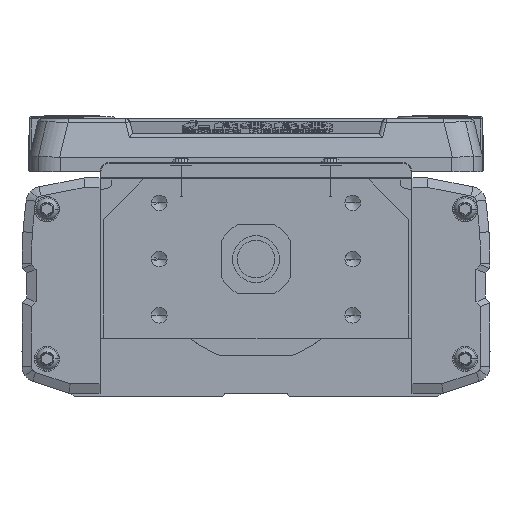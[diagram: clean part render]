
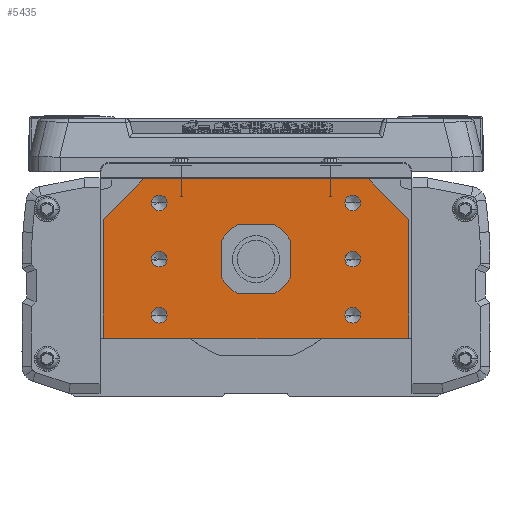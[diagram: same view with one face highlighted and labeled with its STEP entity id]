
A CAD part, left-side view. The second image highlights one B-rep face of the part: STEP entity #5435.
In plain terms, the highlighted planar face has unit normal (-1, 0, 0).
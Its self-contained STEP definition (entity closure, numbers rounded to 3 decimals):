
#5435=ADVANCED_FACE('',(#11295,#11296,#11297,#11298,#11299,#11300,#11301,#11302),#11303,.F.);
#11295=FACE_OUTER_BOUND('',#18623,.T.);
#11296=FACE_BOUND('',#18624,.T.);
#11297=FACE_BOUND('',#18625,.T.);
#11298=FACE_BOUND('',#18626,.T.);
#11299=FACE_BOUND('',#18627,.T.);
#11300=FACE_BOUND('',#18628,.T.);
#11301=FACE_BOUND('',#18629,.T.);
#11302=FACE_BOUND('',#18630,.T.);
#11303=PLANE('',#18631);
#18623=EDGE_LOOP('',(#34316,#34317,#34318,#34319,#34320,#34321,#34322,#34323));
#18624=EDGE_LOOP('',(#34324,#34325));
#18625=EDGE_LOOP('',(#34326,#34327));
#18626=EDGE_LOOP('',(#34328,#34329));
#18627=EDGE_LOOP('',(#34330,#34331));
#18628=EDGE_LOOP('',(#34332,#34333));
#18629=EDGE_LOOP('',(#34334,#34335));
#18630=EDGE_LOOP('',(#34336,#34337));
#18631=AXIS2_PLACEMENT_3D('',#34338,#34339,#34340);
#34316=ORIENTED_EDGE('',*,*,#43590,.F.);
#34317=ORIENTED_EDGE('',*,*,#39730,.F.);
#34318=ORIENTED_EDGE('',*,*,#42484,.F.);
#34319=ORIENTED_EDGE('',*,*,#42505,.F.);
#34320=ORIENTED_EDGE('',*,*,#40166,.F.);
#34321=ORIENTED_EDGE('',*,*,#42225,.F.);
#34322=ORIENTED_EDGE('',*,*,#41857,.F.);
#34323=ORIENTED_EDGE('',*,*,#44697,.F.);
#34324=ORIENTED_EDGE('',*,*,#43143,.T.);
#34325=ORIENTED_EDGE('',*,*,#44698,.T.);
#34326=ORIENTED_EDGE('',*,*,#44699,.T.);
#34327=ORIENTED_EDGE('',*,*,#44700,.T.);
#34328=ORIENTED_EDGE('',*,*,#38616,.T.);
#34329=ORIENTED_EDGE('',*,*,#42868,.T.);
#34330=ORIENTED_EDGE('',*,*,#43159,.T.);
#34331=ORIENTED_EDGE('',*,*,#44701,.T.);
#34332=ORIENTED_EDGE('',*,*,#44702,.T.);
#34333=ORIENTED_EDGE('',*,*,#41639,.T.);
#34334=ORIENTED_EDGE('',*,*,#40665,.T.);
#34335=ORIENTED_EDGE('',*,*,#44703,.T.);
#34336=ORIENTED_EDGE('',*,*,#38427,.F.);
#34337=ORIENTED_EDGE('',*,*,#44667,.F.);
#34338=CARTESIAN_POINT('',(0.,0.275,-2.548));
#34339=DIRECTION('',(1.0,0.,0.));
#34340=DIRECTION('',(0.,1.0,0.));
#38427=EDGE_CURVE('',#45491,#45486,#45493,.F.);
#38616=EDGE_CURVE('',#45824,#45828,#45830,.T.);
#39730=EDGE_CURVE('',#47797,#47793,#47799,.T.);
#40166=EDGE_CURVE('',#48527,#48529,#48530,.T.);
#40665=EDGE_CURVE('',#49335,#49339,#49341,.T.);
#41639=EDGE_CURVE('',#50887,#50885,#50888,.T.);
#41857=EDGE_CURVE('',#51211,#51212,#51213,.T.);
#42225=EDGE_CURVE('',#51212,#48527,#51740,.T.);
#42484=EDGE_CURVE('',#52128,#47797,#52130,.T.);
#42505=EDGE_CURVE('',#48529,#52128,#52159,.T.);
#42868=EDGE_CURVE('',#45828,#45824,#52676,.T.);
#43143=EDGE_CURVE('',#53045,#53048,#53050,.T.);
#43159=EDGE_CURVE('',#53068,#53070,#53072,.T.);
#43590=EDGE_CURVE('',#47793,#53632,#53633,.T.);
#44667=EDGE_CURVE('',#45486,#45491,#54915,.F.);
#44697=EDGE_CURVE('',#53632,#51211,#54947,.T.);
#44698=EDGE_CURVE('',#53048,#53045,#54948,.T.);
#44699=EDGE_CURVE('',#54949,#54950,#54951,.T.);
#44700=EDGE_CURVE('',#54950,#54949,#54952,.T.);
#44701=EDGE_CURVE('',#53070,#53068,#54953,.T.);
#44702=EDGE_CURVE('',#50885,#50887,#54954,.T.);
#44703=EDGE_CURVE('',#49339,#49335,#54955,.T.);
#45486=VERTEX_POINT('',#55805);
#45491=VERTEX_POINT('',#55811);
#45493=CIRCLE('',#55814,7.5);
#45824=VERTEX_POINT('',#56257);
#45828=VERTEX_POINT('',#56262);
#45830=CIRCLE('',#56265,2.5);
#47793=VERTEX_POINT('',#59031);
#47797=VERTEX_POINT('',#59037);
#47799=LINE('',#59040,#59041);
#48527=VERTEX_POINT('',#59968);
#48529=VERTEX_POINT('',#59971);
#48530=LINE('',#59972,#59973);
#49335=VERTEX_POINT('',#61403);
#49339=VERTEX_POINT('',#61408);
#49341=CIRCLE('',#61411,2.5);
#50885=VERTEX_POINT('',#63574);
#50887=VERTEX_POINT('',#63577);
#50888=CIRCLE('',#63578,2.5);
#51211=VERTEX_POINT('',#64024);
#51212=VERTEX_POINT('',#64025);
#51213=LINE('',#64026,#64027);
#51740=LINE('',#64755,#64756);
#52128=VERTEX_POINT('',#65316);
#52130=LINE('',#65319,#65320);
#52159=LINE('',#65361,#65362);
#52676=CIRCLE('',#66053,2.5);
#53045=VERTEX_POINT('',#66552);
#53048=VERTEX_POINT('',#66556);
#53050=CIRCLE('',#66559,2.5);
#53068=VERTEX_POINT('',#66585);
#53070=VERTEX_POINT('',#66588);
#53072=CIRCLE('',#66591,2.5);
#53632=VERTEX_POINT('',#67347);
#53633=LINE('',#67348,#67349);
#54915=CIRCLE('',#69237,7.5);
#54947=LINE('',#69276,#69277);
#54948=CIRCLE('',#69278,2.5);
#54949=VERTEX_POINT('',#69279);
#54950=VERTEX_POINT('',#69280);
#54951=CIRCLE('',#69281,2.5);
#54952=CIRCLE('',#69282,2.5);
#54953=CIRCLE('',#69283,2.5);
#54954=CIRCLE('',#69284,2.5);
#54955=CIRCLE('',#69285,2.5);
#55805=CARTESIAN_POINT('',(0.,-7.5,0.));
#55811=CARTESIAN_POINT('',(0.,7.5,0.));
#55814=AXIS2_PLACEMENT_3D('',#70395,#70396,#70397);
#56257=CARTESIAN_POINT('',(0.,33.5,18.));
#56262=CARTESIAN_POINT('',(0.,28.5,18.));
#56265=AXIS2_PLACEMENT_3D('',#70645,#70646,#70647);
#59031=CARTESIAN_POINT('',(0.,49.,12.7));
#59037=CARTESIAN_POINT('',(0.,49.,-25.));
#59040=CARTESIAN_POINT('',(0.,49.,-25.));
#59041=VECTOR('',#72176,10.0);
#59968=CARTESIAN_POINT('',(0.,-49.,-25.));
#59971=CARTESIAN_POINT('',(0.,-48.5,-25.5));
#59972=CARTESIAN_POINT('',(0.,-49.,-25.));
#59973=VECTOR('',#72863,10.0);
#61403=CARTESIAN_POINT('',(0.,-33.5,0.));
#61408=CARTESIAN_POINT('',(0.,-28.5,0.));
#61411=AXIS2_PLACEMENT_3D('',#73508,#73509,#73510);
#63574=CARTESIAN_POINT('',(0.,33.5,0.));
#63577=CARTESIAN_POINT('',(0.,28.5,0.));
#63578=AXIS2_PLACEMENT_3D('',#74911,#74912,#74913);
#64024=CARTESIAN_POINT('',(0.,-36.,25.7));
#64025=CARTESIAN_POINT('',(0.,-49.,12.7));
#64026=CARTESIAN_POINT('',(0.,-37.243,24.457));
#64027=VECTOR('',#75174,10.0);
#64755=CARTESIAN_POINT('',(0.,-49.,-14.));
#64756=VECTOR('',#75619,10.0);
#65316=CARTESIAN_POINT('',(0.,48.5,-25.5));
#65319=CARTESIAN_POINT('',(0.,48.5,-25.5));
#65320=VECTOR('',#75956,10.0);
#65361=CARTESIAN_POINT('',(0.,0.,-25.5));
#65362=VECTOR('',#75981,10.0);
#66053=AXIS2_PLACEMENT_3D('',#76451,#76452,#76453);
#66552=CARTESIAN_POINT('',(0.,33.5,-18.));
#66556=CARTESIAN_POINT('',(0.,28.5,-18.));
#66559=AXIS2_PLACEMENT_3D('',#76792,#76793,#76794);
#66585=CARTESIAN_POINT('',(0.,-33.5,18.));
#66588=CARTESIAN_POINT('',(0.,-28.5,18.));
#66591=AXIS2_PLACEMENT_3D('',#76808,#76809,#76810);
#67347=CARTESIAN_POINT('',(0.,36.,25.7));
#67348=CARTESIAN_POINT('',(0.,37.381,24.319));
#67349=VECTOR('',#77374,10.);
#69237=AXIS2_PLACEMENT_3D('',#78510,#78511,#78512);
#69276=CARTESIAN_POINT('',(0.,34.5,25.7));
#69277=VECTOR('',#78538,10.0);
#69278=AXIS2_PLACEMENT_3D('',#78539,#78540,#78541);
#69279=CARTESIAN_POINT('',(0.,-33.5,-18.));
#69280=CARTESIAN_POINT('',(0.,-28.5,-18.));
#69281=AXIS2_PLACEMENT_3D('',#78542,#78543,#78544);
#69282=AXIS2_PLACEMENT_3D('',#78545,#78546,#78547);
#69283=AXIS2_PLACEMENT_3D('',#78548,#78549,#78550);
#69284=AXIS2_PLACEMENT_3D('',#78551,#78552,#78553);
#69285=AXIS2_PLACEMENT_3D('',#78554,#78555,#78556);
#70395=CARTESIAN_POINT('',(0.,0.,0.));
#70396=DIRECTION('',(1.0,0.,0.));
#70397=DIRECTION('',(0.,-1.0,0.));
#70645=CARTESIAN_POINT('',(0.,31.,18.));
#70646=DIRECTION('',(1.0,0.,0.));
#70647=DIRECTION('',(0.,1.0,0.));
#72176=DIRECTION('',(0.,0.,1.0));
#72863=DIRECTION('',(0.,0.707,-0.707));
#73508=CARTESIAN_POINT('',(0.,-31.,0.));
#73509=DIRECTION('',(1.0,0.,0.));
#73510=DIRECTION('',(0.,-1.0,0.));
#74911=CARTESIAN_POINT('',(0.,31.,0.));
#74912=DIRECTION('',(1.0,0.,0.));
#74913=DIRECTION('',(0.,1.0,0.));
#75174=DIRECTION('',(0.,-0.707,-0.707));
#75619=DIRECTION('',(0.,0.,-1.0));
#75956=DIRECTION('',(0.,0.707,0.707));
#75981=DIRECTION('',(0.,1.0,0.));
#76451=CARTESIAN_POINT('',(0.,31.,18.));
#76452=DIRECTION('',(1.0,0.,0.));
#76453=DIRECTION('',(0.,1.0,0.));
#76792=CARTESIAN_POINT('',(0.,31.,-18.));
#76793=DIRECTION('',(1.0,0.,0.));
#76794=DIRECTION('',(0.,1.0,0.));
#76808=CARTESIAN_POINT('',(0.,-31.,18.));
#76809=DIRECTION('',(1.0,0.,0.));
#76810=DIRECTION('',(0.,-1.0,0.));
#77374=DIRECTION('',(0.,-0.707,0.707));
#78510=CARTESIAN_POINT('',(0.,0.,0.));
#78511=DIRECTION('',(1.0,0.,0.));
#78512=DIRECTION('',(0.,-1.0,0.));
#78538=DIRECTION('',(0.,-1.0,0.));
#78539=CARTESIAN_POINT('',(0.,31.,-18.));
#78540=DIRECTION('',(1.0,0.,0.));
#78541=DIRECTION('',(0.,1.0,0.));
#78542=CARTESIAN_POINT('',(0.,-31.,-18.));
#78543=DIRECTION('',(1.0,0.,0.));
#78544=DIRECTION('',(0.,-1.0,0.));
#78545=CARTESIAN_POINT('',(0.,-31.,-18.));
#78546=DIRECTION('',(1.0,0.,0.));
#78547=DIRECTION('',(0.,-1.0,0.));
#78548=CARTESIAN_POINT('',(0.,-31.,18.));
#78549=DIRECTION('',(1.0,0.,0.));
#78550=DIRECTION('',(0.,-1.0,0.));
#78551=CARTESIAN_POINT('',(0.,31.,0.));
#78552=DIRECTION('',(1.0,0.,0.));
#78553=DIRECTION('',(0.,1.0,0.));
#78554=CARTESIAN_POINT('',(0.,-31.,0.));
#78555=DIRECTION('',(1.0,0.,0.));
#78556=DIRECTION('',(0.,-1.0,0.));
